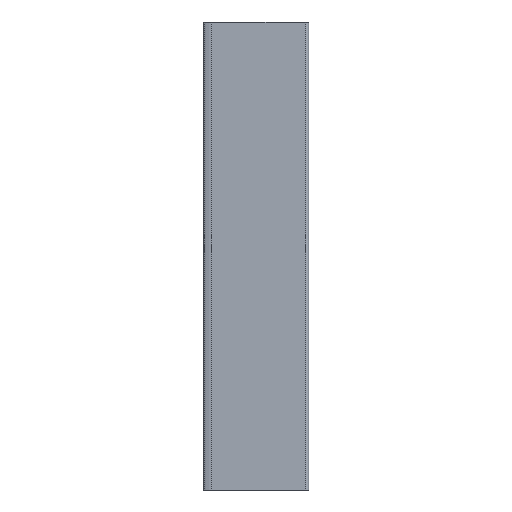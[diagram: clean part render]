
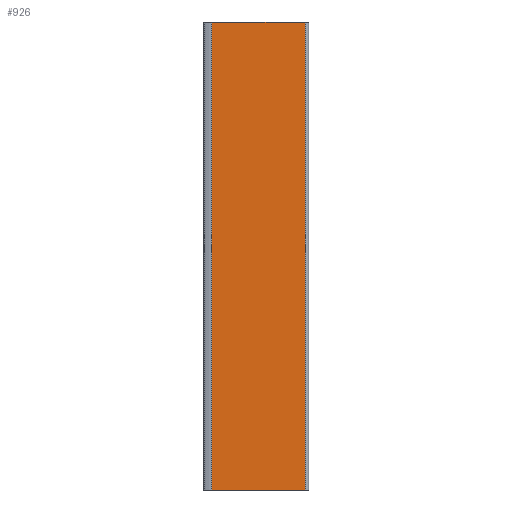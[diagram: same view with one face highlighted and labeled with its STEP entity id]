
A CAD part, front view. The second image highlights one B-rep face of the part: STEP entity #926.
In plain terms, the highlighted planar face has unit normal (0, -1, 0).
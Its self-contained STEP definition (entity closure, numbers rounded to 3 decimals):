
#1=DIRECTION('',(1.,0.,0.));
#2=VECTOR('',#1,199.233);
#3=CARTESIAN_POINT('',(-15.144,-2.,-722.));
#4=LINE('',#3,#2);
#144=DIRECTION('',(0.,0.,1.));
#145=VECTOR('',#144,1000.);
#146=CARTESIAN_POINT('',(184.09,-2.,-722.));
#147=LINE('',#146,#145);
#152=DIRECTION('',(-1.,0.,0.));
#153=VECTOR('',#152,199.233);
#154=CARTESIAN_POINT('',(184.09,-2.,278.));
#155=LINE('',#154,#153);
#311=DIRECTION('',(0.,0.,-1.));
#312=VECTOR('',#311,1000.);
#313=CARTESIAN_POINT('',(-15.144,-2.,278.));
#314=LINE('',#313,#312);
#691=CARTESIAN_POINT('',(-15.144,-2.,-722.));
#692=CARTESIAN_POINT('',(184.09,-2.,-722.));
#693=VERTEX_POINT('',#691);
#694=VERTEX_POINT('',#692);
#695=CARTESIAN_POINT('',(-15.144,-2.,278.));
#696=VERTEX_POINT('',#695);
#697=CARTESIAN_POINT('',(184.09,-2.,278.));
#698=VERTEX_POINT('',#697);
#911=CARTESIAN_POINT('',(125.896,-2.,28.));
#912=DIRECTION('',(0.,-1.,0.));
#913=DIRECTION('',(1.,0.,0.));
#914=AXIS2_PLACEMENT_3D('',#911,#912,#913);
#915=PLANE('',#914);
#917=ORIENTED_EDGE('',*,*,#916,.F.);
#919=ORIENTED_EDGE('',*,*,#918,.F.);
#921=ORIENTED_EDGE('',*,*,#920,.F.);
#923=ORIENTED_EDGE('',*,*,#922,.F.);
#924=EDGE_LOOP('',(#917,#919,#921,#923));
#925=FACE_OUTER_BOUND('',#924,.F.);
#926=ADVANCED_FACE('',(#925),#915,.T.);
#916=EDGE_CURVE('',#693,#694,#4,.T.);
#918=EDGE_CURVE('',#696,#693,#314,.T.);
#920=EDGE_CURVE('',#698,#696,#155,.T.);
#922=EDGE_CURVE('',#694,#698,#147,.T.);
